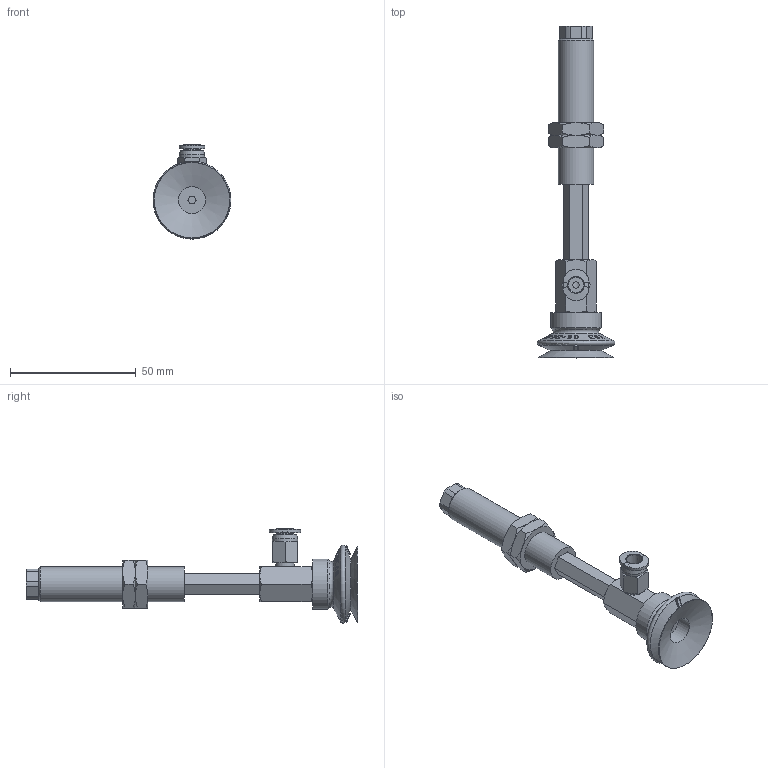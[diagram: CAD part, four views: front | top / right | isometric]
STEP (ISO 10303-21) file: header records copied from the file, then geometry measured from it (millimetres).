
FILE_DESCRIPTION(('STEP AP214'),'1');
FILE_NAME('-O.stp','2026-01-21T07:18:24',(' '),(' '),'Spatial InterOp 3D',' ',' ');
FILE_SCHEMA(('AUTOMOTIVE_DESIGN { 1 0 10303 214 1 1 1 1 }'));
Length unit declared in the file: millimetre
Products named in the file (8): BNABPJYH-30-30-※-O; PC-C_06-M5; BPJG-30-※; Adapter-30-NAPJ; CONNECTOR_H-30-30; NAPJH-30-30-NUT; NAPJYH-30-30-FBODY; NAPJYH-30-30-MBODY
Assembly tree (8 placements, depth 2):
  BNABPJYH-30-30-※-O
    PC-C_06-M5
    BPJG-30-※
    Adapter-30-NAPJ
    CONNECTOR_H-30-30
    NAPJH-30-30-NUT  x2
    NAPJYH-30-30-FBODY
    NAPJYH-30-30-MBODY
Bounding box: 30.99 x 132 x 37.48 mm (x, y, z)
Volume: 21807.5 mm3; surface area: 16943.2 mm2
Topology: 7 solids, 10 shells, 843 faces, 2299 edges, 1504 vertices
Faces by surface type: plane 704, cone 86, cylinder 37, torus 9, bspline 4, revolution 3
Full cylindrical faces by diameter (mm): 3 x2, 4 x2, 4.134 x2, 4.917 x1, 5 x2, 5.8 x1, 6 x1, 7 x1, 7.4 x1, 8.2 x1, 10 x1, 10.8 x1, 11 x1, 13.188 x2, 14 x1, 20 x1
Entity records: 33593 total; most frequent: CARTESIAN_POINT 8397, ORIENTED_EDGE 4392, DIRECTION 2870, EDGE_CURVE 2198, VERTEX_POINT 1469, B_SPLINE_CURVE_WITH_KNOTS 1092, AXIS2_PLACEMENT_3D 961, LINE 945
